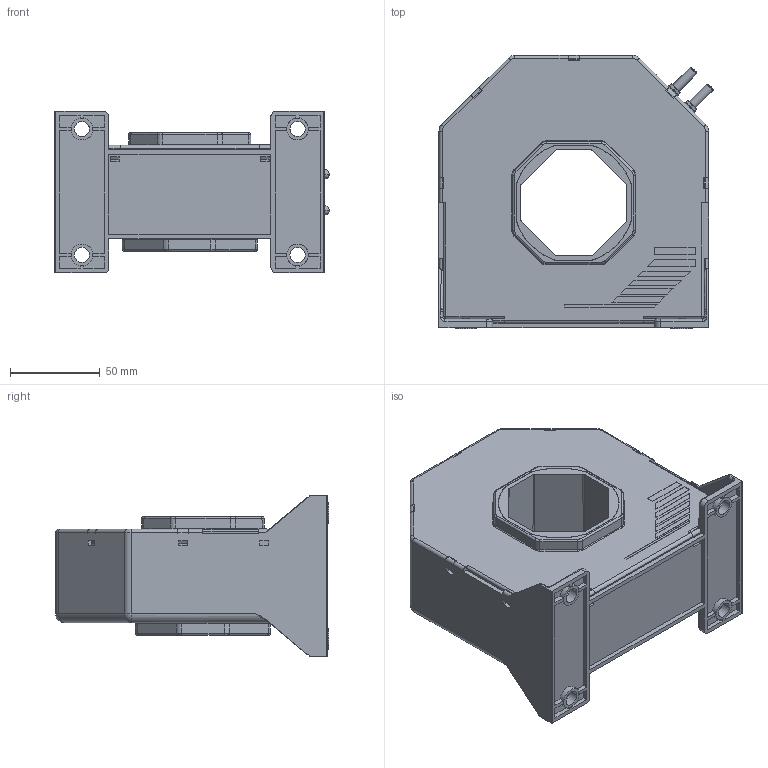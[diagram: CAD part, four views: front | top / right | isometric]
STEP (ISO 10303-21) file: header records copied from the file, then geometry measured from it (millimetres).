
FILE_DESCRIPTION(('CoCreate Modeling STEP Export'),'2;1');
FILE_NAME('LT 2005-S_SP3_Blackbox.stp','2009-06-09T11:40:53',(''),(''),'CoCreate Modeling STEP processor for AP214 (Solid Model)','CoCreate Modeling 16.00A 16-Aug-2008 (C) Parametric Technology GmbH','');
FILE_SCHEMA(('AUTOMOTIVE_DESIGN { 1 0 10303 214 1 1 1 1 }'));
Length unit declared in the file: millimetre
Products named in the file (3): vis-M4; boitier; LT2005-S_SP3_Blackbox
Assembly tree (5 placements, depth 2):
  LT2005-S_SP3_Blackbox
    boitier
    vis-M4  x4
Bounding box: 152.51 x 152.2 x 90 mm (x, y, z)
Volume: 957748.8 mm3; surface area: 97309.5 mm2
Topology: 5 solids, 5 shells, 965 faces, 2431 edges, 1556 vertices
Faces by surface type: plane 580, cylinder 243, bspline 75, cone 52, torus 15
Entity records: 34002 total; most frequent: CARTESIAN_POINT 13250, ORIENTED_EDGE 4480, DIRECTION 3948, EDGE_CURVE 2240, VECTOR 1620, LINE 1620, VERTEX_POINT 1436, AXIS2_PLACEMENT_3D 1164
